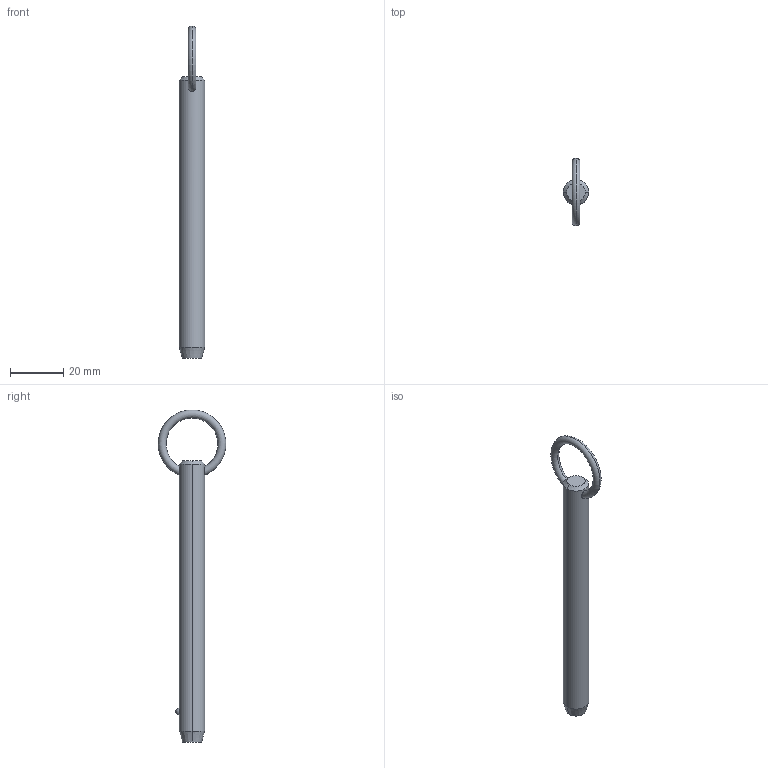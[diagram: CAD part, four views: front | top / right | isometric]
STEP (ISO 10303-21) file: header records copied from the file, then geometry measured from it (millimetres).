
FILE_DESCRIPTION (( 'STEP AP203' ), '1' );
FILE_NAME ('P1250.037-340.step', '2019-07-29T20:04:44', ( '' ), ( '' ), 'SwSTEP 2.0', 'SolidWorks 2017', '' );
FILE_SCHEMA (( 'CONFIG_CONTROL_DESIGN' ));
Length unit declared in the file: millimetre
Products named in the file (1): P1250.037-340
Bounding box: 9.52 x 25.39 x 124.5 mm (x, y, z)
Volume: 7857.2 mm3; surface area: 3796 mm2
Topology: 1 solids, 1 shells, 12 faces, 28 edges, 17 vertices
Faces by surface type: cone 4, torus 2, sphere 2, cylinder 2, plane 2
Entity records: 523 total; most frequent: CARTESIAN_POINT 190, DIRECTION 56, ORIENTED_EDGE 48, AXIS2_PLACEMENT_3D 25, EDGE_CURVE 24, EDGE_LOOP 15, VERTEX_POINT 15, CIRCLE 12
